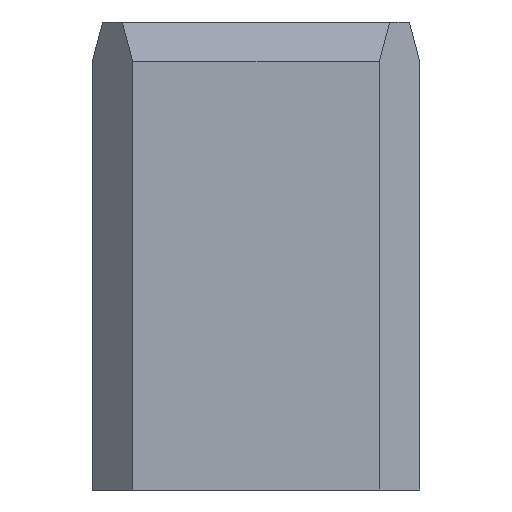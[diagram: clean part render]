
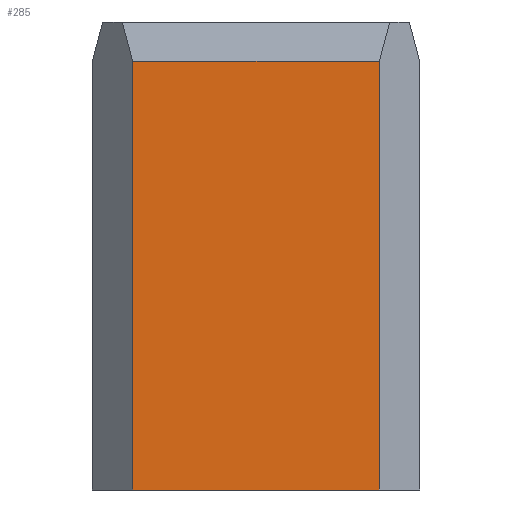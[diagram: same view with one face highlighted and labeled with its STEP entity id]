
A CAD part, left-side view. The second image highlights one B-rep face of the part: STEP entity #285.
In plain terms, the highlighted planar face has unit normal (-1, 0, 0).
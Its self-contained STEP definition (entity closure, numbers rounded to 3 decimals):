
#13 = CARTESIAN_POINT ( 'NONE',  ( -10.5, -10.5, 30. ) ) ;
#32 = VERTEX_POINT ( 'NONE', #333 ) ;
#56 = CARTESIAN_POINT ( 'NONE',  ( -10.5, -10.5, 0. ) ) ;
#58 = FACE_OUTER_BOUND ( 'NONE', #704, .T. ) ;
#63 = AXIS2_PLACEMENT_3D ( 'NONE', #13, #346, #115 ) ;
#66 = CARTESIAN_POINT ( 'NONE',  ( -10.5, -7.9, 27.5 ) ) ;
#72 = DIRECTION ( 'NONE',  ( 0., 0., 1. ) ) ;
#115 = DIRECTION ( 'NONE',  ( 0., 0., -1. ) ) ;
#132 = ORIENTED_EDGE ( 'NONE', *, *, #651, .T. ) ;
#177 = CARTESIAN_POINT ( 'NONE',  ( -10.5, 7.9, 30. ) ) ;
#187 = VERTEX_POINT ( 'NONE', #66 ) ;
#200 = EDGE_CURVE ( 'NONE', #187, #32, #737, .T. ) ;
#205 = VECTOR ( 'NONE', #685, 1000. ) ;
#239 = ORIENTED_EDGE ( 'NONE', *, *, #355, .T. ) ;
#242 = PLANE ( 'NONE',  #63 ) ;
#265 = CARTESIAN_POINT ( 'NONE',  ( -10.5, 7.9, 0. ) ) ;
#285 = ADVANCED_FACE ( 'NONE', ( #58 ), #242, .F. ) ;
#295 = DIRECTION ( 'NONE',  ( 0., 1., 0. ) ) ;
#303 = VECTOR ( 'NONE', #295, 1000. ) ;
#318 = ORIENTED_EDGE ( 'NONE', *, *, #714, .T. ) ;
#333 = CARTESIAN_POINT ( 'NONE',  ( -10.5, 7.9, 27.5 ) ) ;
#346 = DIRECTION ( 'NONE',  ( 1., 0., 0. ) ) ;
#355 = EDGE_CURVE ( 'NONE', #543, #187, #360, .T. ) ;
#360 = LINE ( 'NONE', #591, #473 ) ;
#399 = DIRECTION ( 'NONE',  ( 0., -1., 0. ) ) ;
#415 = CARTESIAN_POINT ( 'NONE',  ( -10.5, 7.9, 27.5 ) ) ;
#418 = VERTEX_POINT ( 'NONE', #265 ) ;
#454 = LINE ( 'NONE', #56, #523 ) ;
#467 = LINE ( 'NONE', #177, #205 ) ;
#473 = VECTOR ( 'NONE', #72, 1000. ) ;
#523 = VECTOR ( 'NONE', #399, 1000. ) ;
#543 = VERTEX_POINT ( 'NONE', #678 ) ;
#591 = CARTESIAN_POINT ( 'NONE',  ( -10.5, -7.9, 30. ) ) ;
#638 = ORIENTED_EDGE ( 'NONE', *, *, #200, .T. ) ;
#651 = EDGE_CURVE ( 'NONE', #418, #543, #454, .T. ) ;
#678 = CARTESIAN_POINT ( 'NONE',  ( -10.5, -7.9, 0. ) ) ;
#685 = DIRECTION ( 'NONE',  ( 0., 0., -1. ) ) ;
#704 = EDGE_LOOP ( 'NONE', ( #239, #638, #318, #132 ) ) ;
#714 = EDGE_CURVE ( 'NONE', #32, #418, #467, .T. ) ;
#737 = LINE ( 'NONE', #415, #303 ) ;
